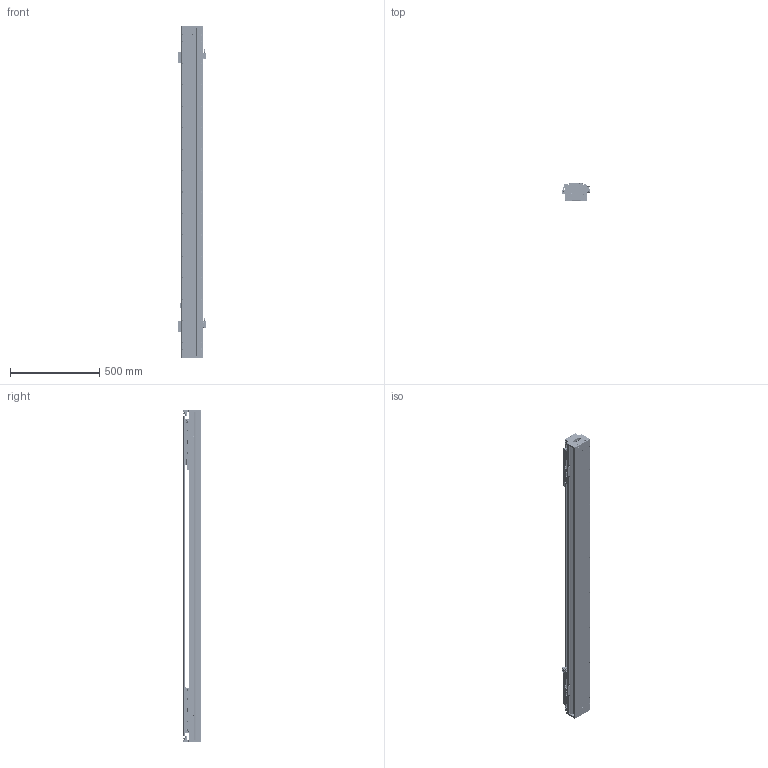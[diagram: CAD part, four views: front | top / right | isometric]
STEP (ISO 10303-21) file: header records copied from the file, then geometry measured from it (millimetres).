
FILE_DESCRIPTION (( 'STEP AP203' ), '1' );
FILE_NAME ('DKW119-2×C3-W060(T1220-L005-0.2).STEP', '2021-09-17T09:00:35', ( '微软用户' ), ( '微软中国' ), 'SwSTEP 2.0', 'SolidWorks 2018', '' );
FILE_SCHEMA (( 'CONFIG_CONTROL_DESIGN' ));
Length unit declared in the file: millimetre
Products named in the file (26): DKW-GYP-ZJ-00 笢潔嫖萇覜茼え; 10980-0001-003-00 嫖萇羲壽嘐隅釱; 11062-0001-004-00 DKW119傷啣; DKW-KGZ-ZJ-00 中间光电开关支架; 嫖萇羲壽蚾饜极; 06652-0001-004-00 DKW120嶺輸菜輸; EE_SX674A; 嫖萇羲壽蚾饜极A; 12018-0001-002-00 詩湍; 12018-0001-001-00 菁釱; DKW119-2×C3-W060(T1220-L005-0.2); DKW-SG-GYP-H-00 嫖萇覜茼え; 砎蝶猾沭; MSB15-DG-U; RUS嫖掑喜; 12160-0000-003-00 DKW120詩湍嶺輸; DKW119-RU-DTJ-00 RU2黍杅芛盓殤; Ru2; 12160-0000-004-00  DKW120詩湍揤輸; 电机出线 ^DKW119-2×C3-W060(T1220-L005-0.2); CKM03-W060_00; DKW119 单轴模组-拉钢带组件; CKMA01-W060-TRLxxx; DKW-DG-XJ-Z-00 笢潔滅袉砎蝶; pm-y65; DKW-HXJ-JY-00 遣喳砎蝶
Assembly tree (45 placements, depth 3):
  DKW119-2×C3-W060(T1220-L005-0.2)
    12018-0001-001-00 菁釱
    MSB15-DG-U  x2
    DKW119-RU-DTJ-00 RU2黍杅芛盓殤  x2
    电机出线 ^DKW119-2×C3-W060(T1220-L005-0.2)  x2
    CKMA01-W060-TRLxxx
    DKW119 单轴模组-拉钢带组件
      DKW-HXJ-JY-00 遣喳砎蝶  x4
      11062-0001-004-00 DKW119傷啣  x2
      06652-0001-004-00 DKW120嶺輸菜輸  x4
      12018-0001-002-00 詩湍
      砎蝶猾沭  x2
      12160-0000-003-00 DKW120詩湍嶺輸  x2
      12160-0000-004-00  DKW120詩湍揤輸  x2
    嫖萇羲壽蚾饜极
      pm-y65  x2
      10980-0001-003-00 嫖萇羲壽嘐隅釱
    嫖萇羲壽蚾饜极A
      pm-y65  x2
      10980-0001-003-00 嫖萇羲壽嘐隅釱
    DKW-SG-GYP-H-00 嫖萇覜茼え  x2
    RUS嫖掑喜
    Ru2  x2
    CKM03-W060_00  x2
    DKW-DG-XJ-Z-00 笢潔滅袉砎蝶
    DKW-GYP-ZJ-00 笢潔嫖萇覜茼え
    DKW-KGZ-ZJ-00 中间光电开关支架
    EE_SX674A
Bounding box: 154.3 x 99 x 1856 mm (x, y, z)
Volume: 9323107.9 mm3; surface area: 2877138.7 mm2
Topology: 62 solids, 160 shells, 6545 faces, 17366 edges, 11114 vertices
Faces by surface type: plane 3492, cylinder 2009, cone 550, bspline 494
Entity records: 134416 total; most frequent: CARTESIAN_POINT 44183, ORIENTED_EDGE 18075, DIRECTION 17464, EDGE_CURVE 9078, VERTEX_POINT 5950, AXIS2_PLACEMENT_3D 5900, LINE 5664, VECTOR 5664
